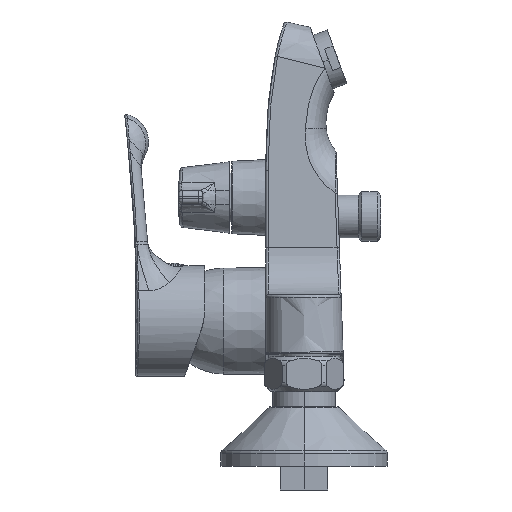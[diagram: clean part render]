
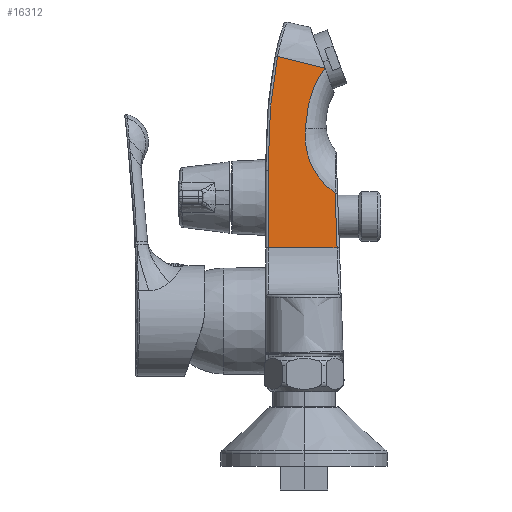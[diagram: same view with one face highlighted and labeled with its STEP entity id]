
A CAD part, left-side view. The second image highlights one B-rep face of the part: STEP entity #16312.
In plain terms, the highlighted planar face has unit normal (-0.998, 0, 0.057).
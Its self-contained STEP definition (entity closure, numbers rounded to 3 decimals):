
#3434=CARTESIAN_POINT('',(-17.555,-0.5,
142.05));
#3435=CARTESIAN_POINT('',(-17.46,-0.595,
143.734));
#3436=CARTESIAN_POINT('',(-17.281,-0.882,
146.876));
#3437=CARTESIAN_POINT('',(-17.05,-1.558,
150.956));
#3438=CARTESIAN_POINT('',(-16.848,-2.407,
154.506));
#3439=CARTESIAN_POINT('',(-16.611,-3.742,
158.688));
#3440=CARTESIAN_POINT('',(-16.36,-5.735,
163.098));
#3441=CARTESIAN_POINT('',(-16.189,-7.715,
166.107));
#3442=CARTESIAN_POINT('',(-16.11,-8.802,
167.495));
#3444=CARTESIAN_POINT('',(-19.098,-13.093,
114.875));
#3445=CARTESIAN_POINT('',(-19.06,-12.162,
115.546));
#3446=CARTESIAN_POINT('',(-18.968,-10.108,
117.179));
#3447=CARTESIAN_POINT('',(-18.815,-7.419,
119.869));
#3448=CARTESIAN_POINT('',(-18.637,-5.037,
123.002));
#3449=CARTESIAN_POINT('',(-18.385,-2.55,
127.437));
#3450=CARTESIAN_POINT('',(-18.109,-1.019,
132.306));
#3451=CARTESIAN_POINT('',(-17.803,-0.408,
137.691));
#3452=CARTESIAN_POINT('',(-17.639,-0.417,
140.582));
#3453=CARTESIAN_POINT('',(-17.555,-0.5,
142.05));
#3455=DIRECTION('',(-0.057,-0.035,-0.998));
#3456=VECTOR('',#3455,23.067);
#3457=CARTESIAN_POINT('',(-19.098,-13.093,
114.875));
#3458=LINE('',#3457,#3456);
#3459=DIRECTION('',(0.,1.,0.));
#3460=VECTOR('',#3459,29.024);
#3461=CARTESIAN_POINT('',(-20.405,-13.897,
91.859));
#3462=LINE('',#3461,#3460);
#3463=DIRECTION('',(0.057,0.,0.998));
#3464=VECTOR('',#3463,32.485);
#3465=CARTESIAN_POINT('',(-20.405,15.127,91.859));
#3466=LINE('',#3465,#3464);
#3467=CARTESIAN_POINT('',(-18.564,15.127,124.292));
#3468=CARTESIAN_POINT('',(-18.486,15.127,125.654));
#3469=CARTESIAN_POINT('',(-18.336,15.114,128.306));
#3470=CARTESIAN_POINT('',(-18.123,15.058,132.044));
#3471=CARTESIAN_POINT('',(-17.921,14.968,135.617));
#3472=CARTESIAN_POINT('',(-17.724,14.846,139.074));
#3473=CARTESIAN_POINT('',(-17.531,14.689,142.47));
#3474=CARTESIAN_POINT('',(-17.339,14.494,145.866));
#3475=CARTESIAN_POINT('',(-17.144,14.253,149.289));
#3476=CARTESIAN_POINT('',(-16.953,13.972,152.652));
#3477=CARTESIAN_POINT('',(-16.764,13.645,155.988));
#3478=CARTESIAN_POINT('',(-16.566,13.249,159.468));
#3479=CARTESIAN_POINT('',(-16.352,12.75,163.244));
#3480=CARTESIAN_POINT('',(-16.113,12.099,167.448));
#3481=CARTESIAN_POINT('',(-15.93,11.506,170.671));
#3482=CARTESIAN_POINT('',(-15.833,11.156,172.372));
#3484=CARTESIAN_POINT('',(-15.833,11.156,172.372));
#3485=CARTESIAN_POINT('',(-15.926,4.503,170.747));
#3486=CARTESIAN_POINT('',(-16.018,-2.15,
169.121));
#3487=CARTESIAN_POINT('',(-16.11,-8.802,
167.495));
#10366=CARTESIAN_POINT('',(-19.098,-13.093,
114.875));
#10367=CARTESIAN_POINT('',(-20.405,-13.897,
91.859));
#10368=VERTEX_POINT('',#10366);
#10369=VERTEX_POINT('',#10367);
#10386=CARTESIAN_POINT('',(-20.405,15.127,91.859));
#10387=VERTEX_POINT('',#10386);
#10388=CARTESIAN_POINT('',(-18.564,15.127,124.292));
#10389=VERTEX_POINT('',#10388);
#10394=VERTEX_POINT('',#3482);
#10396=VERTEX_POINT('',#3453);
#10407=VERTEX_POINT('',#3442);
#16295=CARTESIAN_POINT('',(-15.,-29.,187.05));
#16296=DIRECTION('',(0.998,0.,-0.057));
#16297=DIRECTION('',(-0.057,0.,-0.998));
#16298=AXIS2_PLACEMENT_3D('',#16295,#16296,#16297);
#16299=PLANE('',#16298);
#16300=ORIENTED_EDGE('',*,*,#15135,.F.);
#16301=ORIENTED_EDGE('',*,*,#15327,.F.);
#16303=ORIENTED_EDGE('',*,*,#16302,.T.);
#16304=ORIENTED_EDGE('',*,*,#16262,.T.);
#16305=ORIENTED_EDGE('',*,*,#16286,.T.);
#16307=ORIENTED_EDGE('',*,*,#16306,.T.);
#16309=ORIENTED_EDGE('',*,*,#16308,.T.);
#16310=EDGE_LOOP('',(#16300,#16301,#16303,#16304,#16305,#16307,#16309));
#16311=FACE_OUTER_BOUND('',#16310,.F.);
#16312=ADVANCED_FACE('',(#16311),#16299,.F.);
#3443=B_SPLINE_CURVE_WITH_KNOTS('',3,(#3434,#3435,#3436,#3437,#3438,#3439,#3440,
#3441,#3442),.UNSPECIFIED.,.F.,.F.,(4,1,1,1,1,1,4),(0.,0.125,
0.25,0.375,0.5,0.75,1.),
.UNSPECIFIED.);
#3454=B_SPLINE_CURVE_WITH_KNOTS('',3,(#3444,#3445,#3446,#3447,#3448,#3449,#3450,
#3451,#3452,#3453),.UNSPECIFIED.,.F.,.F.,(4,1,1,1,1,1,1,4),(0.,
0.095,0.224,0.354,0.483,
0.741,0.871,1.),.UNSPECIFIED.);
#3483=B_SPLINE_CURVE_WITH_KNOTS('',3,(#3467,#3468,#3469,#3470,#3471,#3472,#3473,
#3474,#3475,#3476,#3477,#3478,#3479,#3480,#3481,#3482),.UNSPECIFIED.,.F.,.F.,(4,
1,1,1,1,1,1,1,1,1,1,1,1,4),(0.,0.077,0.154,
0.231,0.308,0.385,0.462,
0.538,0.615,0.692,0.769,
0.846,0.923,1.),.UNSPECIFIED.);
#3488=B_SPLINE_CURVE_WITH_KNOTS('',3,(#3484,#3485,#3486,#3487),.UNSPECIFIED.,
.F.,.F.,(4,4),(0.,1.),.UNSPECIFIED.);
#15135=EDGE_CURVE('',#10396,#10407,#3443,.T.);
#15327=EDGE_CURVE('',#10368,#10396,#3454,.T.);
#16262=EDGE_CURVE('',#10369,#10387,#3462,.T.);
#16286=EDGE_CURVE('',#10387,#10389,#3466,.T.);
#16302=EDGE_CURVE('',#10368,#10369,#3458,.T.);
#16306=EDGE_CURVE('',#10389,#10394,#3483,.T.);
#16308=EDGE_CURVE('',#10394,#10407,#3488,.T.);
